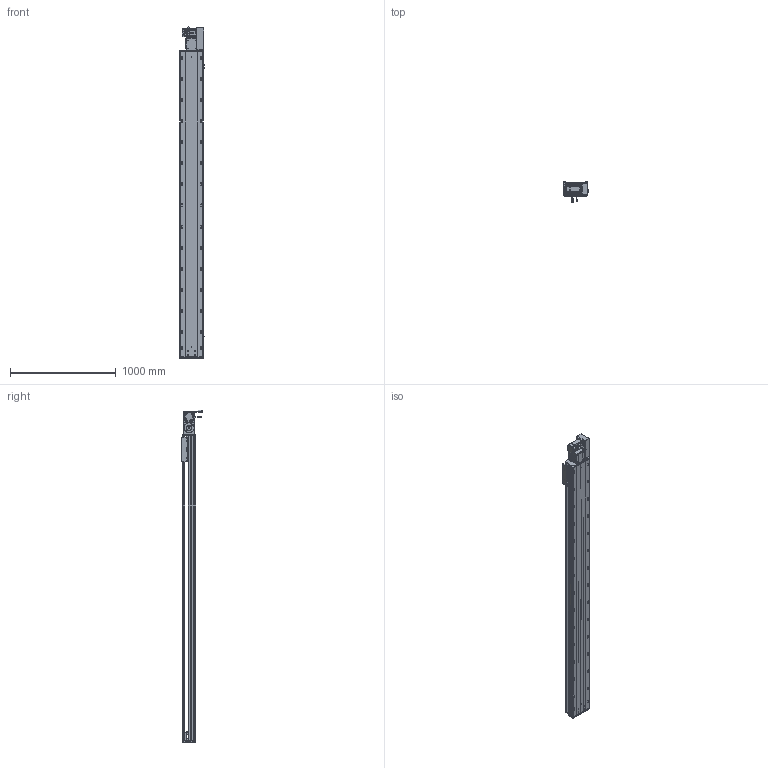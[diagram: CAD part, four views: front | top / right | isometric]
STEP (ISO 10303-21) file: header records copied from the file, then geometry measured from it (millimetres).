
FILE_DESCRIPTION (( 'STEP AP203' ), '1' );
FILE_NAME ('RY220-T-300-RK.SLDASM_2550.step', '2022-07-25T08:25:10', ( '' ), ( '' ), 'SwSTEP 2.0', 'SolidWorks 2016', '' );
FILE_SCHEMA (( 'CONFIG_CONTROL_DESIGN' ));
Length unit declared in the file: millimetre
Products named in the file (14): RY220-同步轮副支撑座6304×2; RY220-T菁釱-300_2550; 覜茼ん672; RY220圉猾敕々湍臏賑輸; RY220翋肮祭謫釱; 怢湛750W_ECMA-CX0807ES; RY220翋肮祭謫裔啣; 110A-T-肮祭謫釱傷裔; RY220-T-蛌殏萇儂假蚾啣(750W); RY220-T-湍謫欶(鍼踢); 滅袉蝶18-15; RY220-T-300-奻裔啣_2550; RY220-T-300-RK.SLDASM_2550; RY220-俋离672覜茼んえ
Assembly tree (18 placements, depth 2):
  RY220-T-300-RK.SLDASM_2550
    RY220-T菁釱-300_2550
    RY220翋肮祭謫釱
    覜茼ん672  x3
    RY220圉猾敕々湍臏賑輸
    RY220-T-300-奻裔啣_2550
    RY220-俋离672覜茼んえ
    滅袉蝶18-15  x3
    RY220翋肮祭謫裔啣  x2
    110A-T-肮祭謫釱傷裔
    怢湛750W_ECMA-CX0807ES
    RY220-T-湍謫欶(鍼踢)
    RY220-T-蛌殏萇儂假蚾啣(750W)
    RY220-同步轮副支撑座6304×2
Bounding box: 238.7 x 198.77 x 3145.24 mm (x, y, z)
Volume: 22291616.4 mm3; surface area: 6849636.2 mm2
Topology: 19 solids, 19 shells, 2936 faces, 8119 edges, 5096 vertices
Faces by surface type: cylinder 1436, plane 1069, cone 349, bspline 56, sphere 16, torus 10
Entity records: 97891 total; most frequent: CARTESIAN_POINT 27671, ORIENTED_EDGE 14522, DIRECTION 13972, EDGE_CURVE 7261, AXIS2_PLACEMENT_3D 5026, VERTEX_POINT 4720, VECTOR 3920, LINE 3920
